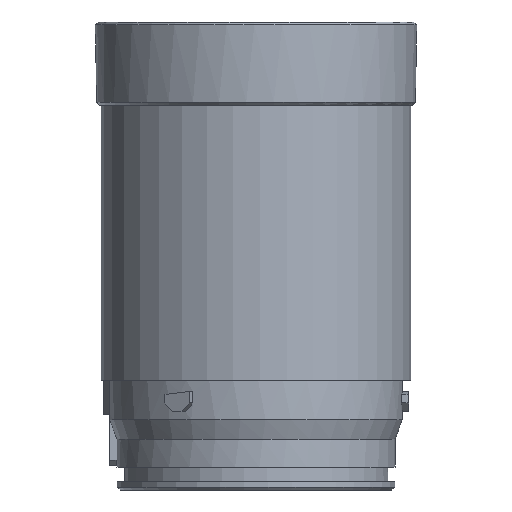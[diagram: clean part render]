
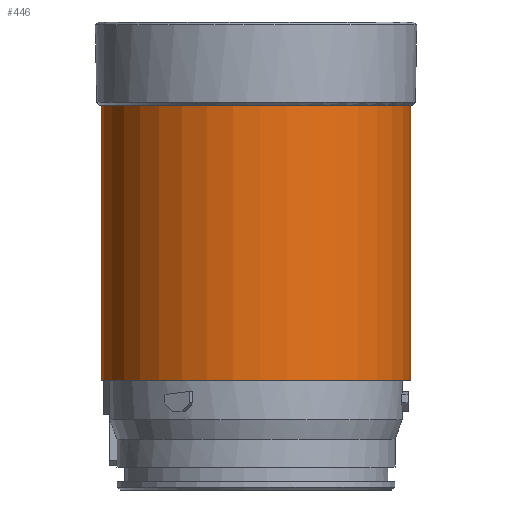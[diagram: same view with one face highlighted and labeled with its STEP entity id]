
A CAD part, front view. The second image highlights one B-rep face of the part: STEP entity #446.
In plain terms, the highlighted cylindrical face has radius 27 mm (diameter 54 mm), a full revolution.
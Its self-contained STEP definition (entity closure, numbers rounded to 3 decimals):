
#446 = ADVANCED_FACE ( 'NONE', ( #9776, #9868 ), #9927, .T. ) ;
#716 = ORIENTED_EDGE ( 'NONE', *, *, #3531, .T. ) ;
#740 = ORIENTED_EDGE ( 'NONE', *, *, #3532, .T. ) ;
#3082 = CARTESIAN_POINT ( 'NONE',  ( 33.17, 13.848, -71.414 ) ) ;
#3083 = CARTESIAN_POINT ( 'NONE',  ( 33.17, 13.848, -23.564 ) ) ;
#3531 = EDGE_CURVE ( 'NONE', #9348, #9348, #4292, .T. ) ;
#3532 = EDGE_CURVE ( 'NONE', #9349, #9349, #4296, .T. ) ;
#4292 = CIRCLE ( 'NONE', #12050, 27. ) ;
#4296 = CIRCLE ( 'NONE', #12051, 27. ) ;
#5223 = DIRECTION ( 'NONE',  ( 0., 0., 1. ) ) ;
#5224 = CARTESIAN_POINT ( 'NONE',  ( 12.074, 30.699, -23.564 ) ) ;
#5225 = DIRECTION ( 'NONE',  ( 0., 0., -1. ) ) ;
#5226 = DIRECTION ( 'NONE',  ( 0.781, -0.624, 0. ) ) ;
#5439 = CARTESIAN_POINT ( 'NONE',  ( 12.074, 30.699, -71.414 ) ) ;
#5479 = DIRECTION ( 'NONE',  ( 0.781, -0.624, 0. ) ) ;
#5844 = DIRECTION ( 'NONE',  ( 0., 0., -1. ) ) ;
#6037 = CARTESIAN_POINT ( 'NONE',  ( 12.074, 30.699, -23.564 ) ) ;
#6075 = DIRECTION ( 'NONE',  ( 0.911, 0.413, 0. ) ) ;
#9348 = VERTEX_POINT ( 'NONE', #3082 ) ;
#9349 = VERTEX_POINT ( 'NONE', #3083 ) ;
#9523 = AXIS2_PLACEMENT_3D ( 'NONE', #6037, #5844, #6075 ) ;
#9776 = FACE_OUTER_BOUND ( 'NONE', #10302, .T. ) ;
#9868 = FACE_OUTER_BOUND ( 'NONE', #10310, .T. ) ;
#9927 = CYLINDRICAL_SURFACE ( 'NONE', #9523, 27. ) ;
#10302 = EDGE_LOOP ( 'NONE', ( #740 ) ) ;
#10310 = EDGE_LOOP ( 'NONE', ( #716 ) ) ;
#12050 = AXIS2_PLACEMENT_3D ( 'NONE', #5439, #5223, #5479 ) ;
#12051 = AXIS2_PLACEMENT_3D ( 'NONE', #5224, #5225, #5226 ) ;
